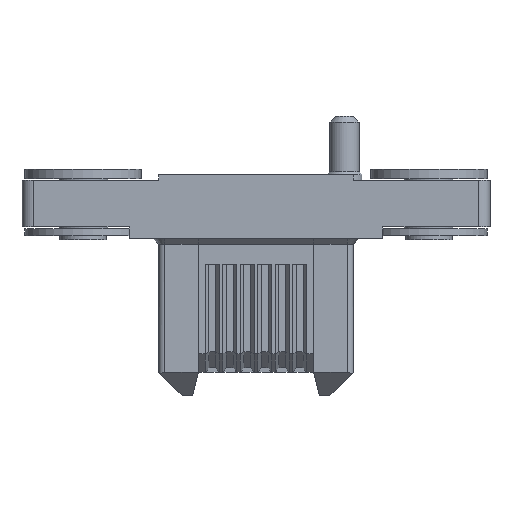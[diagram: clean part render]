
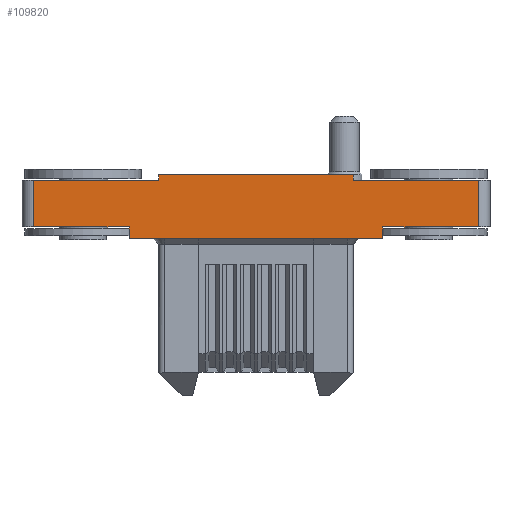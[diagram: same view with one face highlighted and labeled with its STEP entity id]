
A CAD part, front view. The second image highlights one B-rep face of the part: STEP entity #109820.
In plain terms, the highlighted planar face has unit normal (0, -1, 0).
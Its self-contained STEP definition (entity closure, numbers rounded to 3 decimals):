
#3570=CARTESIAN_POINT('',(29.872,-4.086,
-5.5));
#3580=VERTEX_POINT('',#3570);
#4570=CARTESIAN_POINT('',(8.072,-4.086,
-5.5));
#4580=VERTEX_POINT('',#4570);
#4610=CARTESIAN_POINT('',(38.872,-4.086,-5.5));
#4620=DIRECTION('',(-1.,0.,0.));
#4630=VECTOR('',#4620,1.);
#4640=LINE('',#4610,#4630);
#4650=EDGE_CURVE('',#3580,#4580,#4640,.T.);
#57660=CARTESIAN_POINT('',(-0.128,-4.086,-4.5));
#57670=VERTEX_POINT('',#57660);
#57700=CARTESIAN_POINT('',(0.,-4.086,-4.5));
#57710=DIRECTION('',(-1.,0.,0.));
#57720=VECTOR('',#57710,1.);
#57730=LINE('',#57700,#57720);
#57740=CARTESIAN_POINT('',(8.072,-4.086,-4.5));
#57750=VERTEX_POINT('',#57740);
#57760=EDGE_CURVE('',#57750,#57670,#57730,.T.);
#59790=CARTESIAN_POINT('',(8.072,-4.086,-5.5));
#59800=DIRECTION('',(0.,0.,1.));
#59810=VECTOR('',#59800,1.);
#59820=LINE('',#59790,#59810);
#59830=EDGE_CURVE('',#4580,#57750,#59820,.T.);
#60650=CARTESIAN_POINT('',(-0.128,-4.086,-0.5));
#60660=VERTEX_POINT('',#60650);
#60690=CARTESIAN_POINT('',(-0.128,-4.086,-4.5));
#60700=DIRECTION('',(0.,0.,1.));
#60710=VECTOR('',#60700,1.);
#60720=LINE('',#60690,#60710);
#60730=EDGE_CURVE('',#57670,#60660,#60720,.T.);
#73150=CARTESIAN_POINT('',(10.622,-4.086,
0.));
#73160=DIRECTION('',(0.,0.,-1.));
#73170=VECTOR('',#73160,1.);
#73180=LINE('',#73150,#73170);
#73190=CARTESIAN_POINT('',(10.622,-4.086,
0.));
#73200=VERTEX_POINT('',#73190);
#73210=CARTESIAN_POINT('',(10.622,-4.086,-0.5));
#73220=VERTEX_POINT('',#73210);
#73230=EDGE_CURVE('',#73200,#73220,#73180,.T.);
#74050=CARTESIAN_POINT('',(0.,-4.086,-0.5));
#74060=DIRECTION('',(1.,0.,0.));
#74070=VECTOR('',#74060,1.);
#74080=LINE('',#74050,#74070);
#74090=EDGE_CURVE('',#60660,#73220,#74080,.T.);
#78550=CARTESIAN_POINT('',(-21.,-4.086,-4.5));
#78560=DIRECTION('',(-1.,0.,0.));
#78570=VECTOR('',#78560,1.);
#78580=LINE('',#78550,#78570);
#78590=CARTESIAN_POINT('',(38.072,-4.086,-4.5));
#78600=VERTEX_POINT('',#78590);
#78610=CARTESIAN_POINT('',(29.872,-4.086,-4.5));
#78620=VERTEX_POINT('',#78610);
#78630=EDGE_CURVE('',#78600,#78620,#78580,.T.);
#84090=CARTESIAN_POINT('',(38.072,-4.086,
-0.5));
#84100=VERTEX_POINT('',#84090);
#84130=CARTESIAN_POINT('',(-21.,-4.086,
-0.5));
#84140=DIRECTION('',(1.,0.,0.));
#84150=VECTOR('',#84140,1.);
#84160=LINE('',#84130,#84150);
#84170=CARTESIAN_POINT('',(27.322,-4.086,
-0.5));
#84180=VERTEX_POINT('',#84170);
#84190=EDGE_CURVE('',#84180,#84100,#84160,.T.);
#85800=CARTESIAN_POINT('',(27.322,-4.086,
0.));
#85810=VERTEX_POINT('',#85800);
#85840=CARTESIAN_POINT('',(27.322,-4.086,
0.));
#85850=DIRECTION('',(-1.,0.,0.));
#85860=VECTOR('',#85850,1.);
#85870=LINE('',#85840,#85860);
#85880=CARTESIAN_POINT('',(26.572,-4.086,
0.));
#85890=VERTEX_POINT('',#85880);
#85900=EDGE_CURVE('',#85810,#85890,#85870,.T.);
#86080=CARTESIAN_POINT('',(27.322,-4.086,
0.));
#86090=DIRECTION('',(0.,0.,-1.));
#86100=VECTOR('',#86090,1.);
#86110=LINE('',#86080,#86100);
#86120=EDGE_CURVE('',#85810,#84180,#86110,.T.);
#86470=CARTESIAN_POINT('',(32.572,-4.086,
0.));
#86480=DIRECTION('',(-1.,0.,0.));
#86490=VECTOR('',#86480,1.);
#86500=LINE('',#86470,#86490);
#86510=EDGE_CURVE('',#85890,#73200,#86500,.T.);
#109520=CARTESIAN_POINT('',(8.497,-4.086,-2.75));
#109530=DIRECTION('',(0.,-1.,-0.));
#109540=DIRECTION('',(-1.,0.,0.));
#109550=AXIS2_PLACEMENT_3D('',#109520,#109530,#109540);
#109560=PLANE('',#109550);
#109570=ORIENTED_EDGE('',*,*,#59830,.F.);
#109580=ORIENTED_EDGE('',*,*,#57760,.F.);
#109590=ORIENTED_EDGE('',*,*,#60730,.F.);
#109600=ORIENTED_EDGE('',*,*,#74090,.F.);
#109610=ORIENTED_EDGE('',*,*,#73230,.T.);
#109620=ORIENTED_EDGE('',*,*,#86510,.T.);
#109630=ORIENTED_EDGE('',*,*,#85900,.T.);
#109640=ORIENTED_EDGE('',*,*,#86120,.F.);
#109650=ORIENTED_EDGE('',*,*,#84190,.F.);
#109660=CARTESIAN_POINT('',(38.072,-4.086,
-0.5));
#109670=DIRECTION('',(0.,0.,-1.));
#109680=VECTOR('',#109670,1.);
#109690=LINE('',#109660,#109680);
#109700=EDGE_CURVE('',#84100,#78600,#109690,.T.);
#109710=ORIENTED_EDGE('',*,*,#109700,.F.);
#109720=ORIENTED_EDGE('',*,*,#78630,.F.);
#109730=CARTESIAN_POINT('',(29.872,-4.086,-4.5));
#109740=DIRECTION('',(0.,0.,-1.));
#109750=VECTOR('',#109740,1.);
#109760=LINE('',#109730,#109750);
#109770=EDGE_CURVE('',#78620,#3580,#109760,.T.);
#109780=ORIENTED_EDGE('',*,*,#109770,.F.);
#109790=ORIENTED_EDGE('',*,*,#4650,.F.);
#109800=EDGE_LOOP('',(#109790,#109780,#109720,#109710,#109650,#109640,
#109630,#109620,#109610,#109600,#109590,#109580,#109570));
#109810=FACE_OUTER_BOUND('',#109800,.T.);
#109820=ADVANCED_FACE('',(#109810),#109560,.T.);
